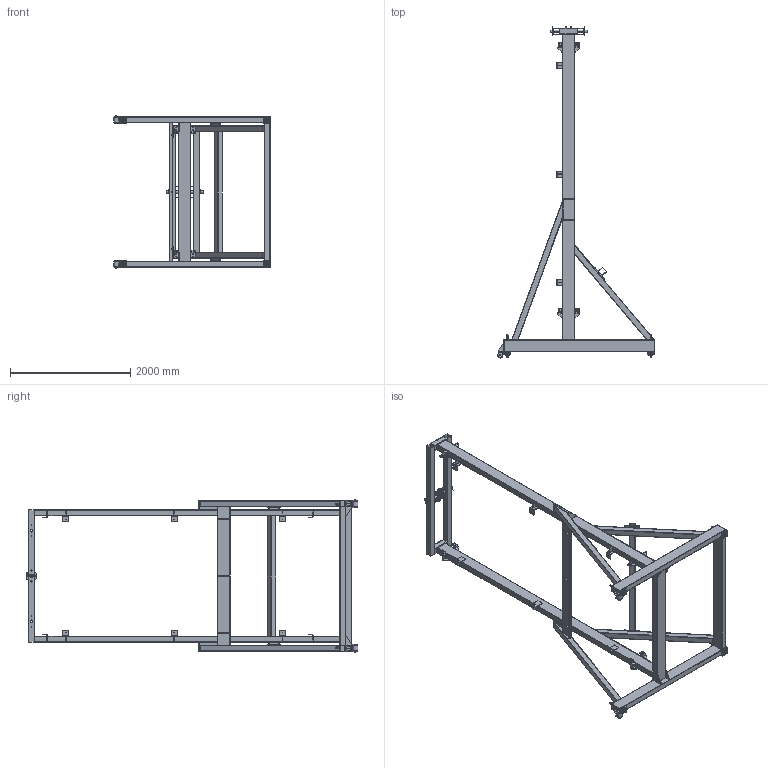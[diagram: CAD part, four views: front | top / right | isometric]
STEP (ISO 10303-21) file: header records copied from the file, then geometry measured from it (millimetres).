
FILE_DESCRIPTION(/* description */ (''),/* implementation_level */ '2;1');
FILE_NAME(/* name */ '2020TOMO-TELAIO-ASSY.00_v9.stp',/* time_stamp */ '2021-12-23T13:38:30+01:00',/* author */ (''),/* organization */ (''),/* preprocessor_version */ 'ST-DEVELOPER v18.1',/* originating_system */ 'SIEMENS PLM Software NX 1992',/* authorisation */ '');
FILE_SCHEMA (('AUTOMOTIVE_DESIGN { 1 0 10303 214 3 1 1 1 }'));
Length unit declared in the file: millimetre
Products named in the file (1): bezECBCF808k7wk
Bounding box: 2598.5 x 5509.67 x 2530 mm (x, y, z)
Volume: 67095967.8 mm3; surface area: 39095496 mm2
Topology: 157 solids, 157 shells, 1659 faces, 4025 edges, 2678 vertices
Faces by surface type: plane 1021, cylinder 518, cone 100, torus 12, extrusion 4, sphere 4
Full cylindrical faces by diameter (mm): 1 x8, 5 x4, 6.7 x10, 6.8 x32, 8.4 x16, 8.5 x8, 8.8 x6, 9 x16, 10 x8, 10.579 x4, 11.701 x4, 12 x8, 14 x34, 14.376 x12, 15 x48, 16 x4, 17 x16, 18 x4, 19 x4, 20 x14, 23.5 x4, 34 x1, 40 x3, 41 x12, 48 x16, 56 x12, 85 x2, 100 x4
Entity records: 48474 total; most frequent: CARTESIAN_POINT 9659, DIRECTION 7571, ORIENTED_EDGE 6950, EDGE_CURVE 3475, AXIS2_PLACEMENT_3D 2760, EDGE_LOOP 2607, VERTEX_POINT 2542, VECTOR 2051
